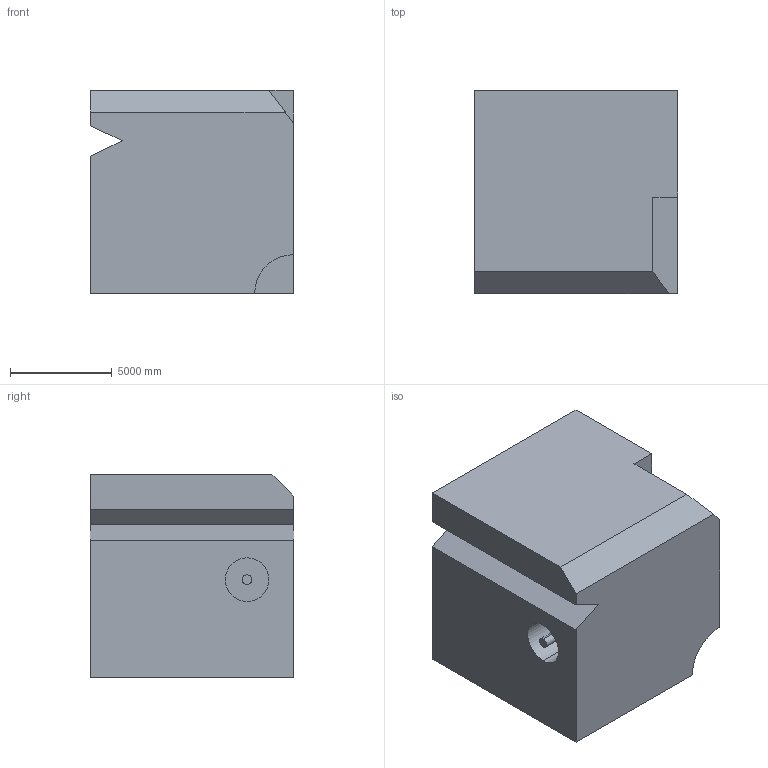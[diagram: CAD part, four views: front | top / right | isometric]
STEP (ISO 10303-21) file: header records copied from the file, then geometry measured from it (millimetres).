
FILE_DESCRIPTION (( 'STEP AP203' ), '1' );
FILE_NAME ('921.STEP', '2022-07-29T14:19:51', ( 'user' ), ( '' ), 'SwSTEP 2.0', 'SolidWorks 2021', '' );
FILE_SCHEMA (( 'CONFIG_CONTROL_DESIGN' ));
Length unit declared in the file: centimetre
Products named in the file (1): 921
Bounding box: 10000 x 10000 x 10000 mm (x, y, z)
Volume: 903388768830.8 mm3; surface area: 740741796.7 mm2
Topology: 1 solids, 1 shells, 42 faces, 108 edges, 72 vertices
Faces by surface type: plane 36, cylinder 6
Entity records: 1341 total; most frequent: CARTESIAN_POINT 223, ORIENTED_EDGE 216, DIRECTION 206, EDGE_CURVE 108, VECTOR 96, LINE 96, VERTEX_POINT 72, AXIS2_PLACEMENT_3D 55
